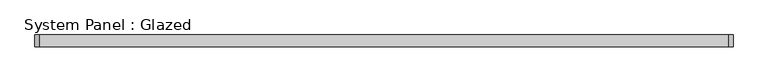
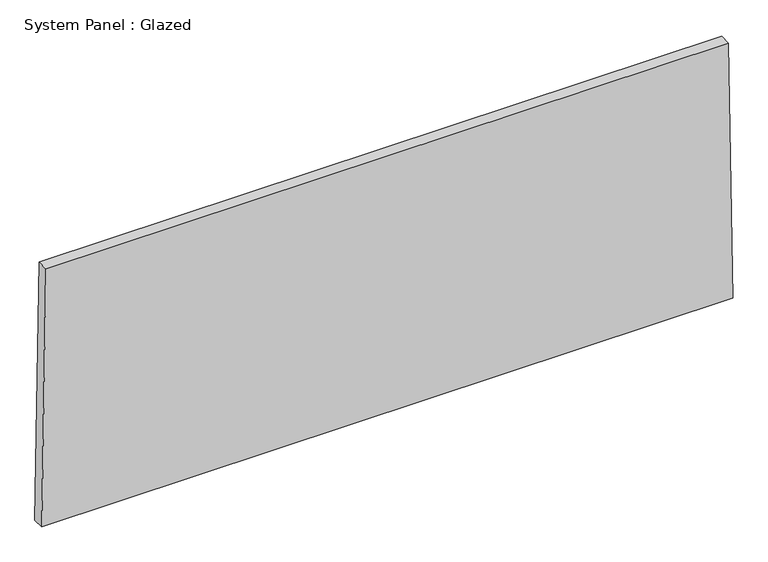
"""IFC4 building model written with IfcOpenShell, lengths in millimetres: plate geometry, System Panel : Glazed."""

from ifc_helpers import new_model, si_unit, frame, origin, place, context, project, spatial, polyline, outline, extrude, source, transform, mapped, element, save


def system_panel_glazed_899a4bea(model_context):
    return source(origin(), model_context, "Body", "SweptSolid", [
        extrude(outline(polyline([(0.0, -744.0962429), (0.0, 744.0962429), (584.1270913, 735.0612331), (584.1270913, -735.0612331), (0.0, -744.0962429)])), frame((0.0, 19.05, 0.0), z_axis=(0.0, 1.0, 0.0), x_axis=(0.0, 0.0, 1.0)), (0.0, 0.0, 1.0), 25.4),
    ])


if __name__ == "__main__":
    model = new_model("IFC4")
    model_context = context("Model", 3, world=origin())
    ifc_project = project(units=[si_unit("LENGTHUNIT", "METRE", prefix="MILLI")], contexts=[model_context])
    site = spatial("IfcSite", under=ifc_project)
    building = spatial("IfcBuilding", under=site)
    placement = place(None, origin())
    system_panel_glazed_shape = system_panel_glazed_899a4bea(model_context)
    element("IfcPlate", 1, ObjectType="System Panel : Glazed", at=placement, inside=building, context=model_context, shape_type="MappedRepresentation", body=[
        mapped(system_panel_glazed_shape, transform((0.0, 0.0, 0.0), x_axis=(1.0, 0.0, 0.0), y_axis=(0.0, 1.0, 0.0), z_axis=(0.0, 0.0, 1.0))),
    ])
    save(model, "model.ifc")
